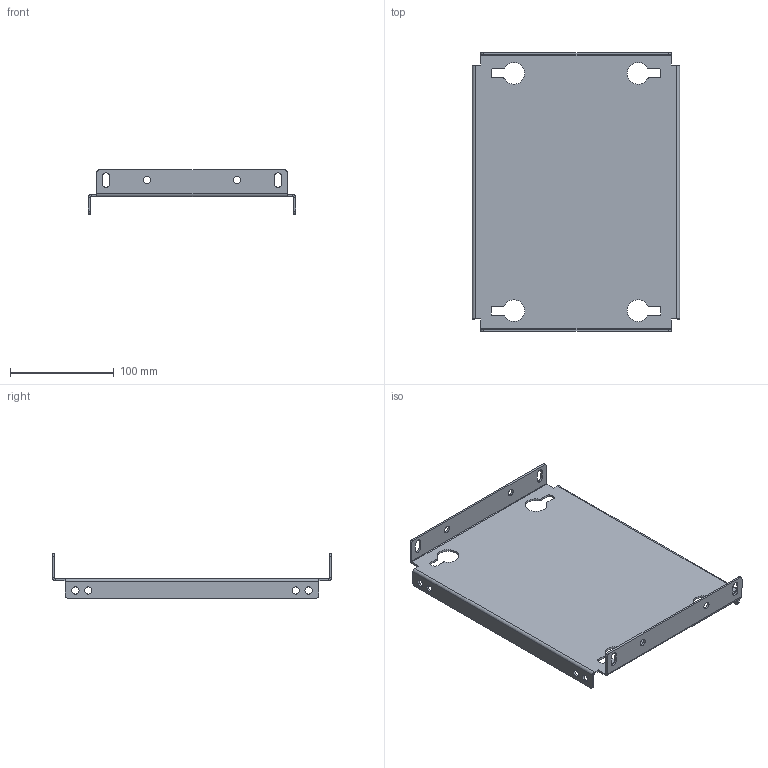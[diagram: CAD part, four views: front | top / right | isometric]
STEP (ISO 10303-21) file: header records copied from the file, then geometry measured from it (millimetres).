
FILE_DESCRIPTION (( 'STEP AP203' ), '1' );
FILE_NAME ('R5PPS3003.STEP', '2021-12-20T06:25:03', ( '' ), ( '' ), 'SwSTEP 2.0', 'SolidWorks 2020', '' );
FILE_SCHEMA (( 'CONFIG_CONTROL_DESIGN' ));
Length unit declared in the file: millimetre
Products named in the file (1): R5PPS3003
Bounding box: 200 x 269 x 43 mm (x, y, z)
Volume: 134762.6 mm3; surface area: 138465.5 mm2
Topology: 1 solids, 1 shells, 132 faces, 358 edges, 228 vertices
Faces by surface type: cylinder 74, plane 58
Entity records: 4331 total; most frequent: DIRECTION 772, CARTESIAN_POINT 719, ORIENTED_EDGE 716, EDGE_CURVE 358, AXIS2_PLACEMENT_3D 281, VERTEX_POINT 228, VECTOR 210, LINE 210
